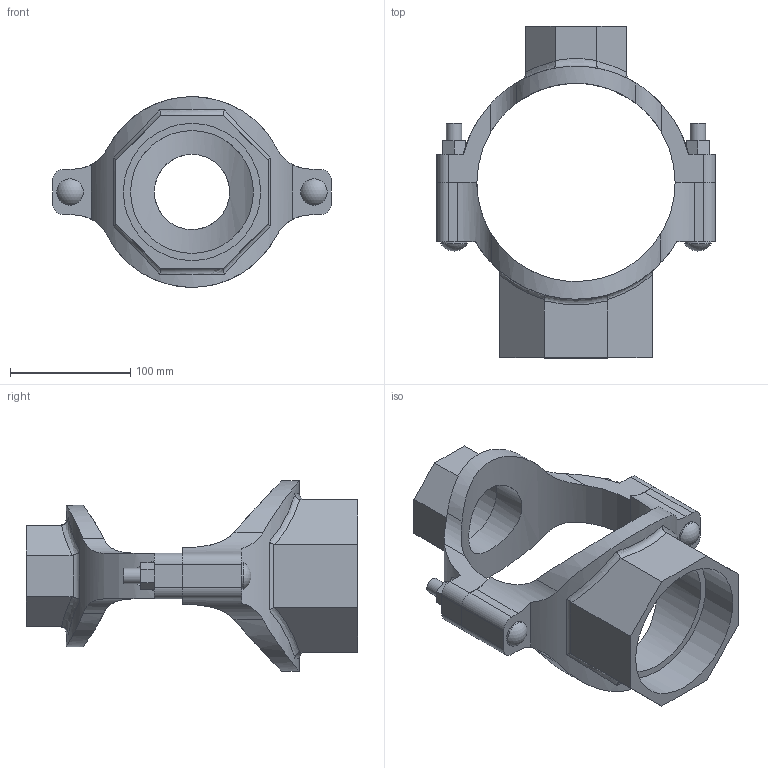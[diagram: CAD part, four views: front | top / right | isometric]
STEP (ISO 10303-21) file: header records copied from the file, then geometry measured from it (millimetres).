
FILE_DESCRIPTION(/* description */ ('VIC MECH-T BRANCH OUTLET CROSS STYLE 920N (THD)','CAx-IF Rec.Pracs.---Representation and Presentation of Product Manufacturing Information (PMI)---4.0---2014-10-13'),/* implementation_level */ '2;1');
FILE_NAME(/* name */ 'C:\Users\Vjadhav\AppData\Roaming\Autodesk\ApplicationPlugins\Back Up\Victaulic_IPS_Mechanical-Cross Outlet_Style 920N (FPT)\Victaulic_IPS_Mechanical-Cross Outlet_06.0 (165.1)x02.5x04.0 (150x65x100).stp',/* time_stamp */ '2020-08-06T19:00:27+06:00',/* author */ ('Vjadhav'),/* organization */ ('Victaulic'),/* preprocessor_version */ 'ST-DEVELOPER v17.2',/* originating_system */ 'Autodesk Inventor 2019',/* authorisation */ '');
FILE_SCHEMA (('AP242_MANAGED_MODEL_BASED_3D_ENGINEERING_MIM_LF { 1 0 10303 442 1 1 4 }'));
Length unit declared in the file: inch
Products named in the file (3): 920NT-06.0 (165.1)x02.5x04.0; 920NT-06.0 (165.1)x02.5x02.5 (76.1); 920T-06.0 (165.1)x04.0
Assembly tree (2 placements, depth 2):
  920NT-06.0 (165.1)x02.5x04.0
    920NT-06.0 (165.1)x02.5x02.5 (76.1)
    920T-06.0 (165.1)x04.0
Bounding box: 231.9 x 276.35 x 158.7 mm (x, y, z)
Volume: 898347.8 mm3; surface area: 187170.9 mm2
Topology: 2 solids, 2 shells, 130 faces, 344 edges, 232 vertices
Faces by surface type: plane 68, cylinder 48, bspline 8, torus 4, sphere 2
Full cylindrical faces by diameter (mm): 12.7 x4, 21.982 x2, 62.738 x1, 73.025 x1, 102.394 x1, 114.3 x1
Entity records: 5182 total; most frequent: CARTESIAN_POINT 1723, ORIENTED_EDGE 688, DIRECTION 638, EDGE_CURVE 344, VERTEX_POINT 232, AXIS2_PLACEMENT_3D 227, LINE 184, VECTOR 184
